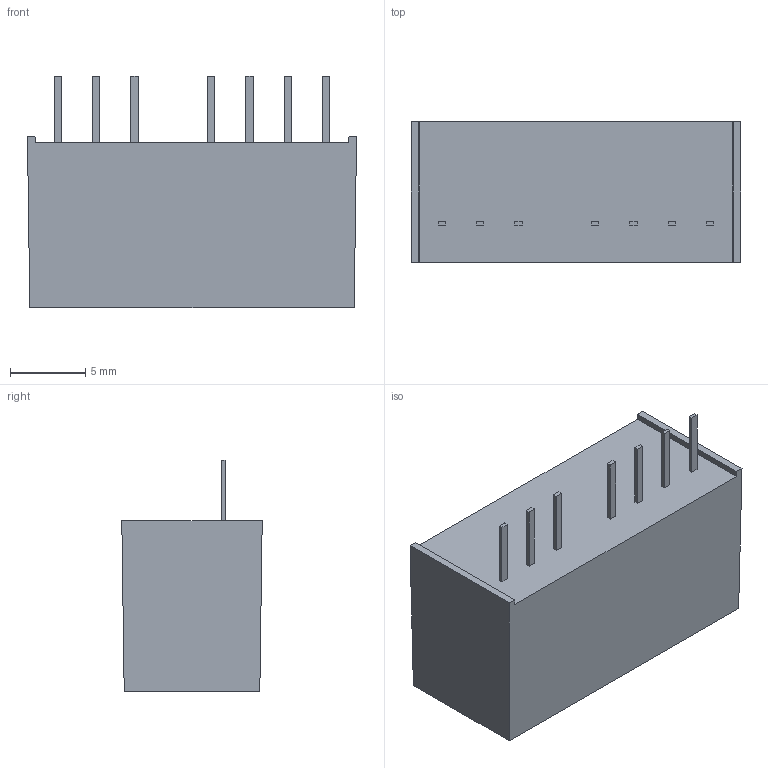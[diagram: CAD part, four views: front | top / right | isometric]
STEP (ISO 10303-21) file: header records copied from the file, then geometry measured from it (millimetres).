
FILE_DESCRIPTION (( 'STEP AP203' ), '1' );
FILE_NAME ('TMR4WI.STEP', '2020-04-07T01:29:50', ( '' ), ( '' ), 'SwSTEP 2.0', 'SolidWorks 2018', '' );
FILE_SCHEMA (( 'CONFIG_CONTROL_DESIGN' ));
Length unit declared in the file: millimetre
Products named in the file (1): TMR4WI
Bounding box: 21.8 x 9.3 x 15.35 mm (x, y, z)
Volume: 2172.1 mm3; surface area: 1131.2 mm2
Topology: 1 solids, 1 shells, 45 faces, 108 edges, 72 vertices
Faces by surface type: plane 45
Entity records: 1359 total; most frequent: CARTESIAN_POINT 226, ORIENTED_EDGE 216, DIRECTION 200, LINE 108, EDGE_CURVE 108, VECTOR 108, VERTEX_POINT 72, EDGE_LOOP 52
